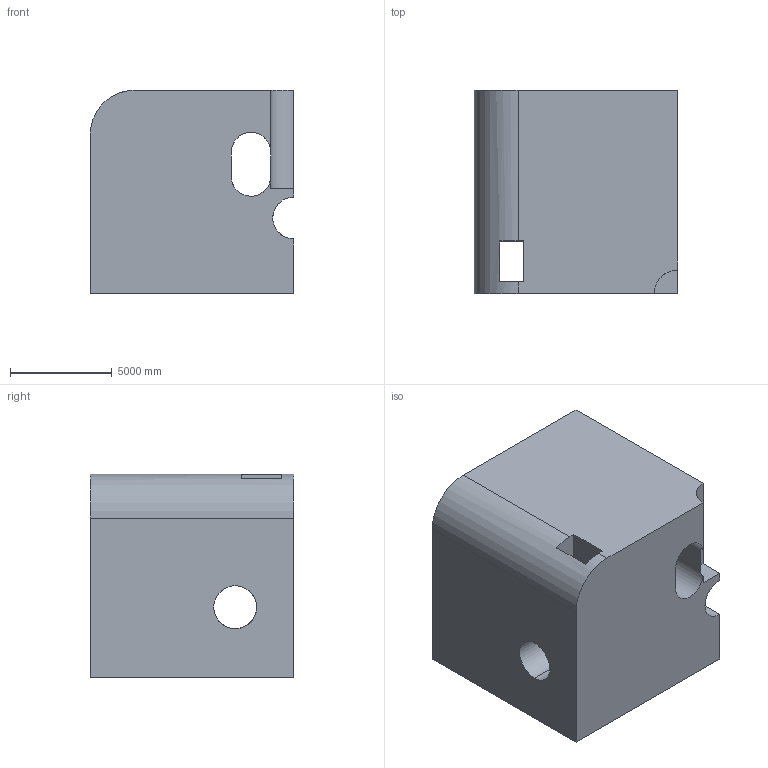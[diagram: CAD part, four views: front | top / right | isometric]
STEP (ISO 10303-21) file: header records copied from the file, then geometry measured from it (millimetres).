
FILE_DESCRIPTION (( 'STEP AP203' ), '1' );
FILE_NAME ('1786.STEP', '2022-08-19T12:52:43', ( 'user' ), ( '' ), 'SwSTEP 2.0', 'SolidWorks 2021', '' );
FILE_SCHEMA (( 'CONFIG_CONTROL_DESIGN' ));
Length unit declared in the file: centimetre
Products named in the file (1): 1786
Bounding box: 10000 x 10000 x 10000 mm (x, y, z)
Volume: 829980946700.4 mm3; surface area: 810125077.2 mm2
Topology: 1 solids, 1 shells, 31 faces, 99 edges, 66 vertices
Faces by surface type: plane 19, cylinder 12
Entity records: 1565 total; most frequent: CARTESIAN_POINT 573, ORIENTED_EDGE 198, DIRECTION 190, EDGE_CURVE 99, VERTEX_POINT 66, LINE 64, VECTOR 64, AXIS2_PLACEMENT_3D 63
